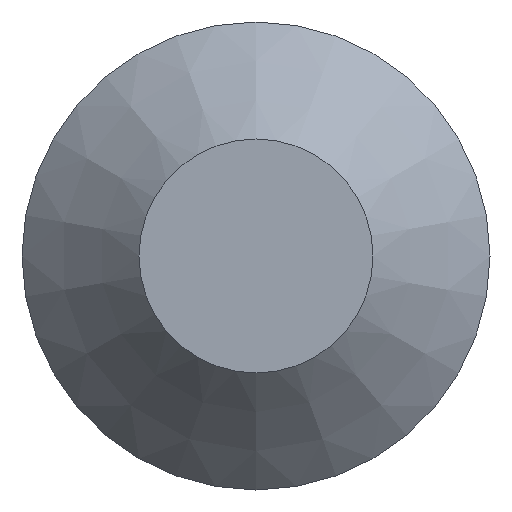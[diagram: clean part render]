
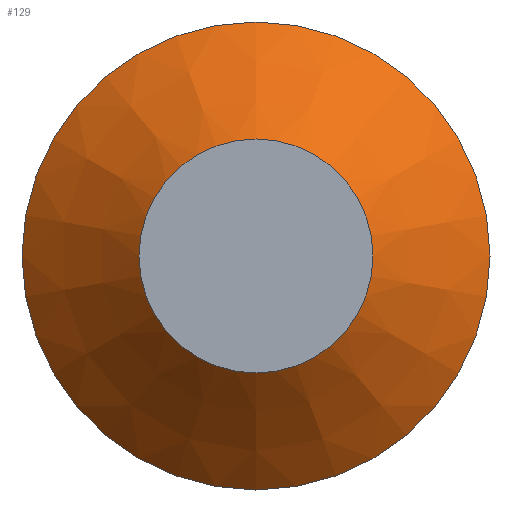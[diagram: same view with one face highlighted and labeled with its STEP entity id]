
A CAD part, left-side view. The second image highlights one B-rep face of the part: STEP entity #129.
In plain terms, the highlighted conical face has half-angle 45 degrees and reference radius 4 mm.
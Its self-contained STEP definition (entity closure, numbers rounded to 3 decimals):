
#21 = EDGE_CURVE('',#22,#24,#26,.T.);
#22 = VERTEX_POINT('',#23);
#23 = CARTESIAN_POINT('',(-5.5,-29.5,99.5));
#24 = VERTEX_POINT('',#25);
#25 = CARTESIAN_POINT('',(-5.5,-31.5,97.5));
#26 = SURFACE_CURVE('',#27,(#32,#44),.PCURVE_S1.);
#27 = CIRCLE('',#28,2.);
#28 = AXIS2_PLACEMENT_3D('',#29,#30,#31);
#29 = CARTESIAN_POINT('',(-5.5,-31.5,99.5));
#30 = DIRECTION('',(-1.,0.,0.));
#31 = DIRECTION('',(0.,0.,-1.));
#32 = PCURVE('',#33,#38);
#33 = CYLINDRICAL_SURFACE('',#34,2.);
#34 = AXIS2_PLACEMENT_3D('',#35,#36,#37);
#35 = CARTESIAN_POINT('',(-5.49,-31.5,99.5));
#36 = DIRECTION('',(1.,-0.,-0.));
#37 = DIRECTION('',(0.,1.,-0.));
#38 = DEFINITIONAL_REPRESENTATION('',(#39),#43);
#39 = LINE('',#40,#41);
#40 = CARTESIAN_POINT('',(4.712,-0.01));
#41 = VECTOR('',#42,1.);
#42 = DIRECTION('',(-1.,0.));
#43 = ( GEOMETRIC_REPRESENTATION_CONTEXT(2) 
PARAMETRIC_REPRESENTATION_CONTEXT() REPRESENTATION_CONTEXT('2D SPACE',''
  ) );
#44 = PCURVE('',#45,#50);
#45 = CONICAL_SURFACE('',#46,4.,0.785);
#46 = AXIS2_PLACEMENT_3D('',#47,#48,#49);
#47 = CARTESIAN_POINT('',(-3.5,-31.5,99.5));
#48 = DIRECTION('',(1.,-0.,-0.));
#49 = DIRECTION('',(0.,0.,-1.));
#50 = DEFINITIONAL_REPRESENTATION('',(#51),#55);
#51 = LINE('',#52,#53);
#52 = CARTESIAN_POINT('',(-0.,-2.));
#53 = VECTOR('',#54,1.);
#54 = DIRECTION('',(-1.,-0.));
#55 = ( GEOMETRIC_REPRESENTATION_CONTEXT(2) 
PARAMETRIC_REPRESENTATION_CONTEXT() REPRESENTATION_CONTEXT('2D SPACE',''
  ) );
#108 = EDGE_CURVE('',#24,#22,#109,.T.);
#109 = SURFACE_CURVE('',#110,(#115,#122),.PCURVE_S1.);
#110 = CIRCLE('',#111,2.);
#111 = AXIS2_PLACEMENT_3D('',#112,#113,#114);
#112 = CARTESIAN_POINT('',(-5.5,-31.5,99.5));
#113 = DIRECTION('',(-1.,0.,0.));
#114 = DIRECTION('',(0.,0.,-1.));
#115 = PCURVE('',#33,#116);
#116 = DEFINITIONAL_REPRESENTATION('',(#117),#121);
#117 = LINE('',#118,#119);
#118 = CARTESIAN_POINT('',(-1.571,-0.01));
#119 = VECTOR('',#120,1.);
#120 = DIRECTION('',(-1.,0.));
#121 = ( GEOMETRIC_REPRESENTATION_CONTEXT(2) 
PARAMETRIC_REPRESENTATION_CONTEXT() REPRESENTATION_CONTEXT('2D SPACE',''
  ) );
#122 = PCURVE('',#45,#123);
#123 = DEFINITIONAL_REPRESENTATION('',(#124),#128);
#124 = LINE('',#125,#126);
#125 = CARTESIAN_POINT('',(-0.,-2.));
#126 = VECTOR('',#127,1.);
#127 = DIRECTION('',(-1.,-0.));
#128 = ( GEOMETRIC_REPRESENTATION_CONTEXT(2) 
PARAMETRIC_REPRESENTATION_CONTEXT() REPRESENTATION_CONTEXT('2D SPACE',''
  ) );
#129 = ADVANCED_FACE('',(#130),#45,.T.);
#130 = FACE_BOUND('',#131,.T.);
#131 = EDGE_LOOP('',(#132,#155,#156,#157,#158));
#132 = ORIENTED_EDGE('',*,*,#133,.T.);
#133 = EDGE_CURVE('',#134,#24,#136,.T.);
#134 = VERTEX_POINT('',#135);
#135 = CARTESIAN_POINT('',(-3.5,-31.5,95.5));
#136 = SEAM_CURVE('',#137,(#141,#148),.PCURVE_S1.);
#137 = LINE('',#138,#139);
#138 = CARTESIAN_POINT('',(-3.5,-31.5,95.5));
#139 = VECTOR('',#140,1.);
#140 = DIRECTION('',(-0.707,0.,0.707)
  );
#141 = PCURVE('',#45,#142);
#142 = DEFINITIONAL_REPRESENTATION('',(#143),#147);
#143 = LINE('',#144,#145);
#144 = CARTESIAN_POINT('',(-6.283,0.));
#145 = VECTOR('',#146,1.);
#146 = DIRECTION('',(-0.,-1.));
#147 = ( GEOMETRIC_REPRESENTATION_CONTEXT(2) 
PARAMETRIC_REPRESENTATION_CONTEXT() REPRESENTATION_CONTEXT('2D SPACE',''
  ) );
#148 = PCURVE('',#45,#149);
#149 = DEFINITIONAL_REPRESENTATION('',(#150),#154);
#150 = LINE('',#151,#152);
#151 = CARTESIAN_POINT('',(0.,-0.));
#152 = VECTOR('',#153,1.);
#153 = DIRECTION('',(-0.,-1.));
#154 = ( GEOMETRIC_REPRESENTATION_CONTEXT(2) 
PARAMETRIC_REPRESENTATION_CONTEXT() REPRESENTATION_CONTEXT('2D SPACE',''
  ) );
#155 = ORIENTED_EDGE('',*,*,#21,.F.);
#156 = ORIENTED_EDGE('',*,*,#108,.F.);
#157 = ORIENTED_EDGE('',*,*,#133,.F.);
#158 = ORIENTED_EDGE('',*,*,#159,.T.);
#159 = EDGE_CURVE('',#134,#134,#160,.T.);
#160 = SURFACE_CURVE('',#161,(#166,#173),.PCURVE_S1.);
#161 = CIRCLE('',#162,4.);
#162 = AXIS2_PLACEMENT_3D('',#163,#164,#165);
#163 = CARTESIAN_POINT('',(-3.5,-31.5,99.5));
#164 = DIRECTION('',(-1.,0.,0.));
#165 = DIRECTION('',(0.,0.,-1.));
#166 = PCURVE('',#45,#167);
#167 = DEFINITIONAL_REPRESENTATION('',(#168),#172);
#168 = LINE('',#169,#170);
#169 = CARTESIAN_POINT('',(-0.,-0.));
#170 = VECTOR('',#171,1.);
#171 = DIRECTION('',(-1.,-0.));
#172 = ( GEOMETRIC_REPRESENTATION_CONTEXT(2) 
PARAMETRIC_REPRESENTATION_CONTEXT() REPRESENTATION_CONTEXT('2D SPACE',''
  ) );
#173 = PCURVE('',#174,#179);
#174 = PLANE('',#175);
#175 = AXIS2_PLACEMENT_3D('',#176,#177,#178);
#176 = CARTESIAN_POINT('',(-3.5,-31.5,99.5));
#177 = DIRECTION('',(-1.,0.,0.));
#178 = DIRECTION('',(0.,0.,-1.));
#179 = DEFINITIONAL_REPRESENTATION('',(#180),#184);
#180 = CIRCLE('',#181,4.);
#181 = AXIS2_PLACEMENT_2D('',#182,#183);
#182 = CARTESIAN_POINT('',(0.,0.));
#183 = DIRECTION('',(1.,0.));
#184 = ( GEOMETRIC_REPRESENTATION_CONTEXT(2) 
PARAMETRIC_REPRESENTATION_CONTEXT() REPRESENTATION_CONTEXT('2D SPACE',''
  ) );
